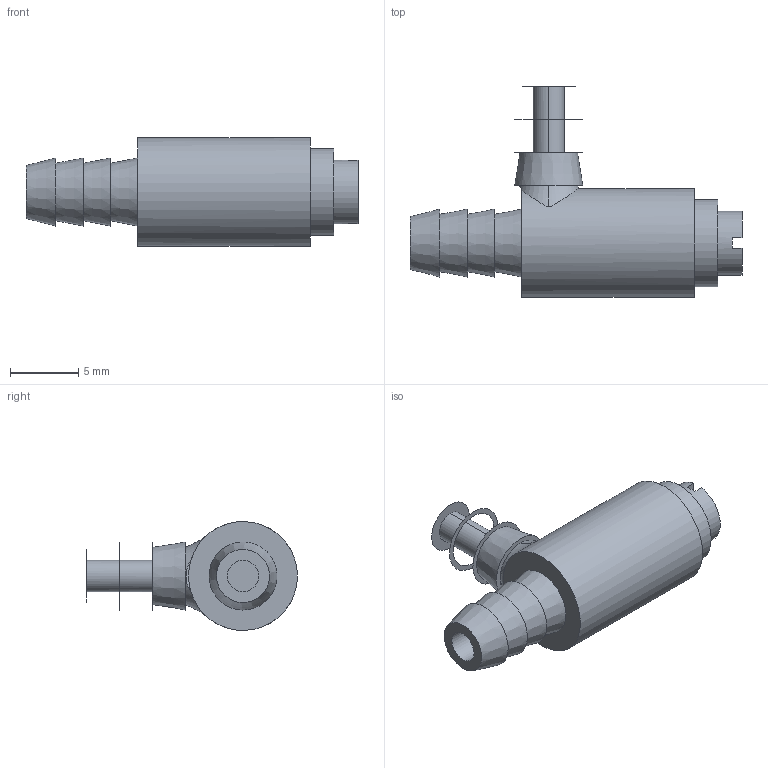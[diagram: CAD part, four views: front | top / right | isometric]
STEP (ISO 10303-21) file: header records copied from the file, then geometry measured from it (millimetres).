
FILE_DESCRIPTION(/* description */ ('SolidWorks IGES file using NURBS representation for surfaces '),/* implementation_level */ '2;1');
FILE_NAME(/* name */ 'K:\Normteile INVENTOR\Air-Logic\Needle Valves\F-2822-30-B85.IGS.ipt.stp',/* time_stamp */ '2020-05-27T10:40:50+02:00',/* author */ ('amarsh'),/* organization */ (''),/* preprocessor_version */ 'ST-DEVELOPER v18',/* originating_system */ 'Autodesk Inventor 2020',/* authorisation */ '');
FILE_SCHEMA (('AUTOMOTIVE_DESIGN { 1 0 10303 214 3 1 1 }'));
Length unit declared in the file: millimetre
Products named in the file (1): F-2822-30-B85.IGS
Bounding box: 24.4 x 15.5 x 8 mm (x, y, z)
Volume: 916.7 mm3; surface area: 890.2 mm2
Topology: 2 solids, 2 shells, 35 faces, 81 edges, 60 vertices
Faces by surface type: plane 18, cone 7, cylinder 7, torus 3
Full cylindrical faces by diameter (mm): 2.3 x1, 4.7 x1, 6.4 x1, 8 x1
Entity records: 1193 total; most frequent: CARTESIAN_POINT 280, DIRECTION 201, ORIENTED_EDGE 162, AXIS2_PLACEMENT_3D 90, EDGE_CURVE 81, VERTEX_POINT 60, CIRCLE 54, EDGE_LOOP 45
